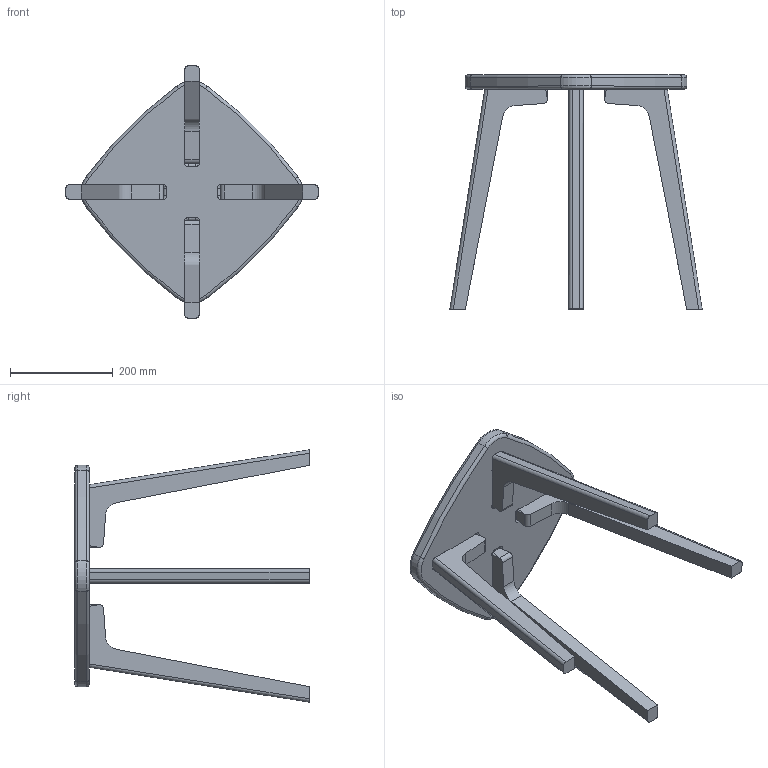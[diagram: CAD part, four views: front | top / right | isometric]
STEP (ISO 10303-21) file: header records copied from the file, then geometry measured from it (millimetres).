
FILE_DESCRIPTION (( 'STEP AP214' ), '1' );
FILE_NAME ('Stool-v4.STEP', '2019-10-24T14:28:56', ( '' ), ( '' ), 'SwSTEP 2.0', 'SolidWorks 2018', '' );
FILE_SCHEMA (( 'AUTOMOTIVE_DESIGN' ));
Length unit declared in the file: millimetre
Products named in the file (1): Stool-v4
Bounding box: 490 x 455 x 490 mm (x, y, z)
Volume: 5230298.6 mm3; surface area: 550964.3 mm2
Topology: 5 solids, 5 shells, 155 faces, 409 edges, 248 vertices
Faces by surface type: plane 62, cylinder 55, bspline 20, torus 18
Entity records: 6091 total; most frequent: CARTESIAN_POINT 2441, ORIENTED_EDGE 786, DIRECTION 707, EDGE_CURVE 393, AXIS2_PLACEMENT_3D 258, VERTEX_POINT 248, VECTOR 191, LINE 191
